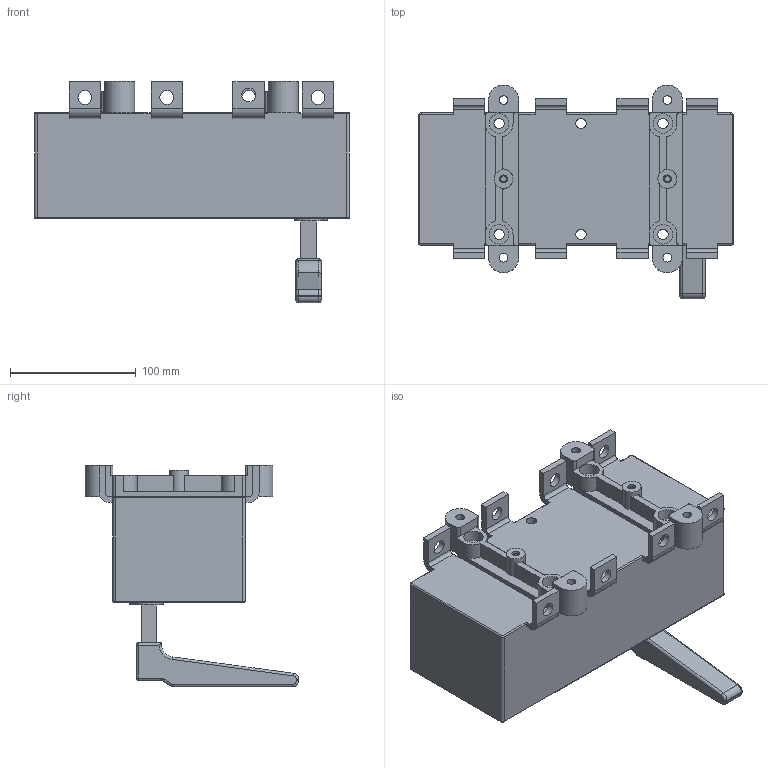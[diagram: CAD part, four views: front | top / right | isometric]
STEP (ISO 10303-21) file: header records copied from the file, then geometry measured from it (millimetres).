
FILE_DESCRIPTION(/* description */ (''),/* implementation_level */ '2;1');
FILE_NAME(/* name */ 'RA630 P3 NC-R.stp',/* time_stamp */ '2021-08-19T08:49:40+02:00',/* author */ (''),/* organization */ (''),/* preprocessor_version */ 'ST-DEVELOPER v18.1',/* originating_system */ 'SIEMENS PLM Software NX 1965',/* authorisation */ '');
FILE_SCHEMA (('PROCESS_PLANNING_SCHEMA','AP242_MANAGED_MODEL_BASED_3D_ENGINEERING_MIM_LF { 1 0 10303 442 1 1 4 }'));
Length unit declared in the file: millimetre
Products named in the file (1): RA630 P3 NC-R_stp
Bounding box: 250 x 169.5 x 176 mm (x, y, z)
Volume: 2341505 mm3; surface area: 176753.1 mm2
Topology: 1 solids, 1 shells, 272 faces, 717 edges, 456 vertices
Faces by surface type: cylinder 129, plane 121, torus 13, sphere 6, bspline 3
Full cylindrical faces by diameter (mm): 4.8 x2, 6.2 x2, 7 x4, 8.2 x6, 11 x8, 14 x4, 15 x2, 15.5 x4
Entity records: 8338 total; most frequent: DIRECTION 1489, CARTESIAN_POINT 1477, ORIENTED_EDGE 1350, EDGE_CURVE 675, AXIS2_PLACEMENT_3D 548, VERTEX_POINT 452, LINE 393, VECTOR 393
